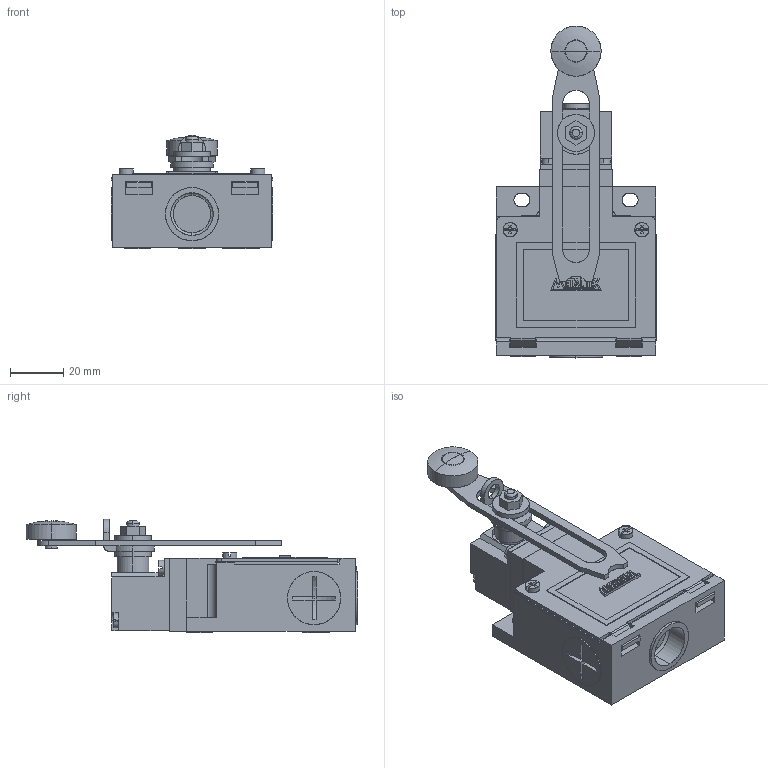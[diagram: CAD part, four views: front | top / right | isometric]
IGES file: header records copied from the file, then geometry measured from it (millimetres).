
Start section: SolidWorks IGES file using analytic representation for surfaces
Global section: file name: D:\X - Arquivos\PROEX\Empresas\P11 - METALTEX\01 - Produtos\IGES\Terceira remessa\TZE41.IGS; native system: SolidWorks 2012; preprocessor: SolidWorks 2012; author: Usuario; date: 180207.114314; units: millimetre
Bounding box: 61 x 124.95 x 42.65 mm (x, y, z)
Surface area: 24705.8 mm2 (no closed solid volume)
Topology: 0 solids, 0 shells, 465 faces, 4424 edges, 4423 vertices
Faces by surface type: bspline 363, revolution 102
